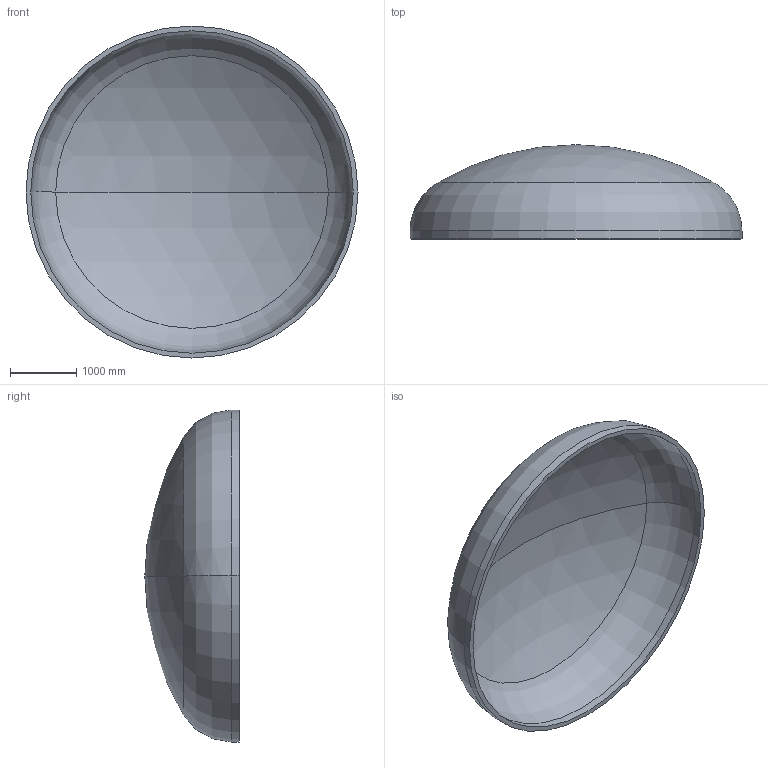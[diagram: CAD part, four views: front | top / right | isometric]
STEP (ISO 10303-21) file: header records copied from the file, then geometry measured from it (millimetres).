
FILE_DESCRIPTION (( 'STEP AP203' ), '1' );
FILE_NAME ('DIN 28013 Korbbogenform_-_Boden DIN 28013 - 5000 x 120 - I - s=72.step', '2016-07-02T00:44:21', ( '' ), ( '' ), 'SwSTEP 2.0', 'SolidWorks 2013', '' );
FILE_SCHEMA (( 'CONFIG_CONTROL_DESIGN' ));
Length unit declared in the file: millimetre
Products named in the file (1): DIN 28013 Korbbogenform_-_Boden DIN 28013 - 5000 x 120 - I - s=72
Bounding box: 5000 x 1420.01 x 5000 mm (x, y, z)
Volume: 2054846830 mm3; surface area: 58204602.3 mm2
Topology: 1 solids, 1 shells, 13 faces, 24 edges, 14 vertices
Faces by surface type: torus 4, cylinder 4, sphere 4, plane 1
Entity records: 407 total; most frequent: DIRECTION 72, CARTESIAN_POINT 52, ORIENTED_EDGE 48, AXIS2_PLACEMENT_3D 34, EDGE_CURVE 24, CIRCLE 20, VERTEX_POINT 14, EDGE_LOOP 14
